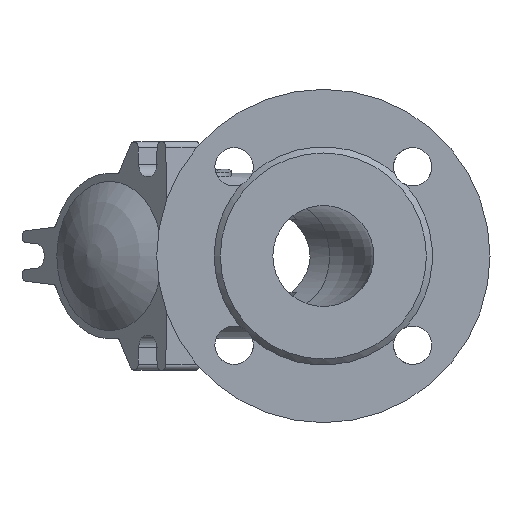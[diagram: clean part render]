
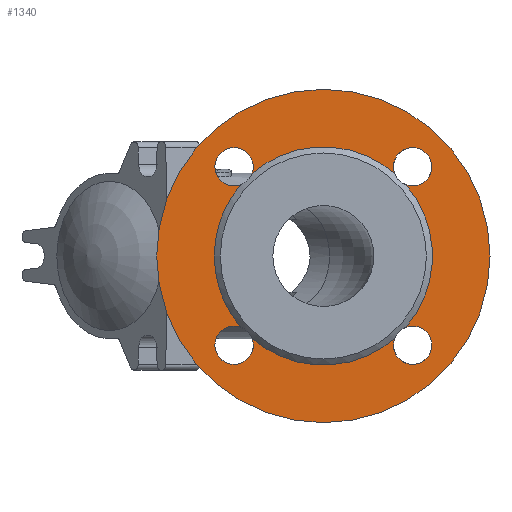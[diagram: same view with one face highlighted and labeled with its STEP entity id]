
A CAD part, left-side view. The second image highlights one B-rep face of the part: STEP entity #1340.
In plain terms, the highlighted planar face has unit normal (-1, 0, 0).
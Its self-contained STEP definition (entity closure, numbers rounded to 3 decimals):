
#1340=ADVANCED_FACE('',(#4145,#4147),#4149,.T.);
#4145=FACE_BOUND('',#4146,.T.);
#4146=EDGE_LOOP('',(#5137));
#4147=FACE_BOUND('',#4148,.T.);
#4148=EDGE_LOOP('',(#5138,#5139,#5140,#5141,#5142,#5143,#5144,#5145,#5146,#5147,
#5148,#5149,#5150));
#4149=PLANE('',#4150);
#4150=AXIS2_PLACEMENT_3D('',#4151,#4152,#4153);
#4151=CARTESIAN_POINT('',(-227.,0.,0.));
#4152=DIRECTION('',(-1.,0.,0.));
#4153=DIRECTION('',(0.,1.,0.));
#5137=ORIENTED_EDGE('',*,*,#5632,.T.);
#5138=ORIENTED_EDGE('',*,*,#5633,.T.);
#5139=ORIENTED_EDGE('',*,*,#5635,.T.);
#5140=ORIENTED_EDGE('',*,*,#5646,.F.);
#5141=ORIENTED_EDGE('',*,*,#5638,.T.);
#5142=ORIENTED_EDGE('',*,*,#5637,.T.);
#5143=ORIENTED_EDGE('',*,*,#5647,.F.);
#5144=ORIENTED_EDGE('',*,*,#5643,.T.);
#5145=ORIENTED_EDGE('',*,*,#5642,.T.);
#5146=ORIENTED_EDGE('',*,*,#5648,.F.);
#5147=ORIENTED_EDGE('',*,*,#5639,.T.);
#5148=ORIENTED_EDGE('',*,*,#5641,.T.);
#5149=ORIENTED_EDGE('',*,*,#5649,.F.);
#5150=ORIENTED_EDGE('',*,*,#5650,.F.);
#5632=EDGE_CURVE('',#6310,#6310,#6311,.T.);
#5633=EDGE_CURVE('',#6312,#6313,#6314,.F.);
#5635=EDGE_CURVE('',#6313,#6315,#6317,.F.);
#5637=EDGE_CURVE('',#6321,#6318,#6322,.F.);
#5638=EDGE_CURVE('',#6319,#6321,#6323,.F.);
#5639=EDGE_CURVE('',#6324,#6325,#6326,.F.);
#5641=EDGE_CURVE('',#6325,#6327,#6329,.F.);
#5642=EDGE_CURVE('',#6330,#6331,#6332,.F.);
#5643=EDGE_CURVE('',#6333,#6330,#6334,.F.);
#5646=EDGE_CURVE('',#6319,#6315,#6338,.T.);
#5647=EDGE_CURVE('',#6333,#6318,#6339,.T.);
#5648=EDGE_CURVE('',#6324,#6331,#6340,.T.);
#5649=EDGE_CURVE('',#6341,#6327,#6342,.T.);
#5650=EDGE_CURVE('',#6312,#6341,#6343,.T.);
#6310=VERTEX_POINT('',#11528);
#6311=CIRCLE('',#11529,82.5);
#6312=VERTEX_POINT('',#11533);
#6313=VERTEX_POINT('',#11534);
#6314=CIRCLE('',#11535,9.5);
#6315=VERTEX_POINT('',#11539);
#6317=CIRCLE('',#11612,9.5);
#6318=VERTEX_POINT('',#11616);
#6319=VERTEX_POINT('',#11617);
#6321=VERTEX_POINT('',#11690);
#6322=CIRCLE('',#11691,9.5);
#6323=CIRCLE('',#11695,9.5);
#6324=VERTEX_POINT('',#11699);
#6325=VERTEX_POINT('',#11700);
#6326=CIRCLE('',#11701,9.5);
#6327=VERTEX_POINT('',#11705);
#6329=CIRCLE('',#11778,9.5);
#6330=VERTEX_POINT('',#11782);
#6331=VERTEX_POINT('',#11783);
#6332=CIRCLE('',#11784,9.5);
#6333=VERTEX_POINT('',#11788);
#6334=CIRCLE('',#11789,9.5);
#6338=CIRCLE('',#11870,54.);
#6339=CIRCLE('',#11874,54.);
#6340=CIRCLE('',#11878,54.);
#6341=VERTEX_POINT('',#11882);
#6342=CIRCLE('',#11883,54.);
#6343=CIRCLE('',#11887,54.);
#11528=CARTESIAN_POINT('',(-227.,82.5,0.));
#11529=AXIS2_PLACEMENT_3D('',#11530,#11531,#11532);
#11530=CARTESIAN_POINT('',(-227.,0.,0.));
#11531=DIRECTION('',(-1.,0.,0.));
#11532=DIRECTION('',(0.,1.,0.));
#11533=CARTESIAN_POINT('',(-227.,40.869,35.295));
#11534=CARTESIAN_POINT('',(-227.,44.194,53.694));
#11535=AXIS2_PLACEMENT_3D('',#11536,#11537,#11538);
#11536=CARTESIAN_POINT('',(-227.,44.194,44.194));
#11537=DIRECTION('',(-1.,0.,0.));
#11538=DIRECTION('',(0.,0.,1.));
#11539=CARTESIAN_POINT('',(-227.,35.295,40.869));
#11612=AXIS2_PLACEMENT_3D('',#11613,#11614,#11615);
#11613=CARTESIAN_POINT('',(-227.,44.194,44.194));
#11614=DIRECTION('',(-1.,0.,0.));
#11615=DIRECTION('',(0.,-0.937,-0.35));
#11616=CARTESIAN_POINT('',(-227.,-40.869,35.295));
#11617=CARTESIAN_POINT('',(-227.,-35.295,40.869));
#11690=CARTESIAN_POINT('',(-227.,-44.194,53.694));
#11691=AXIS2_PLACEMENT_3D('',#11692,#11693,#11694);
#11692=CARTESIAN_POINT('',(-227.,-44.194,44.194));
#11693=DIRECTION('',(-1.,0.,0.));
#11694=DIRECTION('',(0.,0.35,-0.937));
#11695=AXIS2_PLACEMENT_3D('',#11696,#11697,#11698);
#11696=CARTESIAN_POINT('',(-227.,-44.194,44.194));
#11697=DIRECTION('',(-1.,0.,0.));
#11698=DIRECTION('',(0.,0.,1.));
#11699=CARTESIAN_POINT('',(-227.,35.295,-40.869));
#11700=CARTESIAN_POINT('',(-227.,44.194,-34.694));
#11701=AXIS2_PLACEMENT_3D('',#11702,#11703,#11704);
#11702=CARTESIAN_POINT('',(-227.,44.194,-44.194));
#11703=DIRECTION('',(-1.,0.,0.));
#11704=DIRECTION('',(0.,0.,1.));
#11705=CARTESIAN_POINT('',(-227.,40.869,-35.295));
#11778=AXIS2_PLACEMENT_3D('',#11779,#11780,#11781);
#11779=CARTESIAN_POINT('',(-227.,44.194,-44.194));
#11780=DIRECTION('',(-1.,0.,0.));
#11781=DIRECTION('',(0.,-0.35,0.937));
#11782=CARTESIAN_POINT('',(-227.,-44.194,-34.694));
#11783=CARTESIAN_POINT('',(-227.,-35.295,-40.869));
#11784=AXIS2_PLACEMENT_3D('',#11785,#11786,#11787);
#11785=CARTESIAN_POINT('',(-227.,-44.194,-44.194));
#11786=DIRECTION('',(-1.,0.,0.));
#11787=DIRECTION('',(0.,0.937,0.35));
#11788=CARTESIAN_POINT('',(-227.,-40.869,-35.295));
#11789=AXIS2_PLACEMENT_3D('',#11790,#11791,#11792);
#11790=CARTESIAN_POINT('',(-227.,-44.194,-44.194));
#11791=DIRECTION('',(-1.,0.,0.));
#11792=DIRECTION('',(0.,0.,1.));
#11870=AXIS2_PLACEMENT_3D('',#11871,#11872,#11873);
#11871=CARTESIAN_POINT('',(-227.,0.,0.));
#11872=DIRECTION('',(-1.,0.,0.));
#11873=DIRECTION('',(0.,-0.654,0.757));
#11874=AXIS2_PLACEMENT_3D('',#11875,#11876,#11877);
#11875=CARTESIAN_POINT('',(-227.,0.,0.));
#11876=DIRECTION('',(-1.,0.,0.));
#11877=DIRECTION('',(0.,-0.757,-0.654));
#11878=AXIS2_PLACEMENT_3D('',#11879,#11880,#11881);
#11879=CARTESIAN_POINT('',(-227.,0.,0.));
#11880=DIRECTION('',(-1.,0.,0.));
#11881=DIRECTION('',(0.,0.654,-0.757));
#11882=CARTESIAN_POINT('',(-227.,54.,0.));
#11883=AXIS2_PLACEMENT_3D('',#11884,#11885,#11886);
#11884=CARTESIAN_POINT('',(-227.,0.,0.));
#11885=DIRECTION('',(-1.,0.,0.));
#11886=DIRECTION('',(0.,1.,0.));
#11887=AXIS2_PLACEMENT_3D('',#11888,#11889,#11890);
#11888=CARTESIAN_POINT('',(-227.,0.,0.));
#11889=DIRECTION('',(-1.,0.,0.));
#11890=DIRECTION('',(0.,0.757,0.654));
